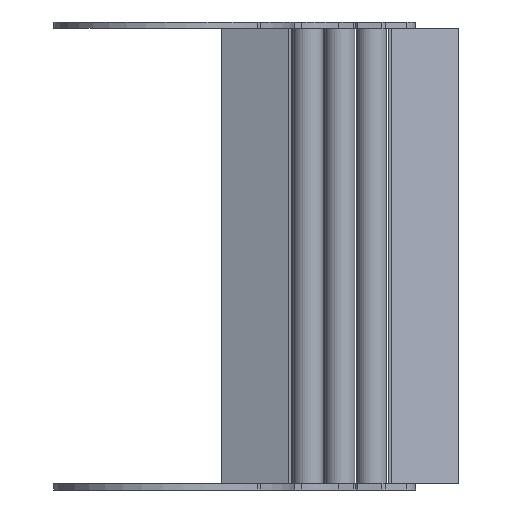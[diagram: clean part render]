
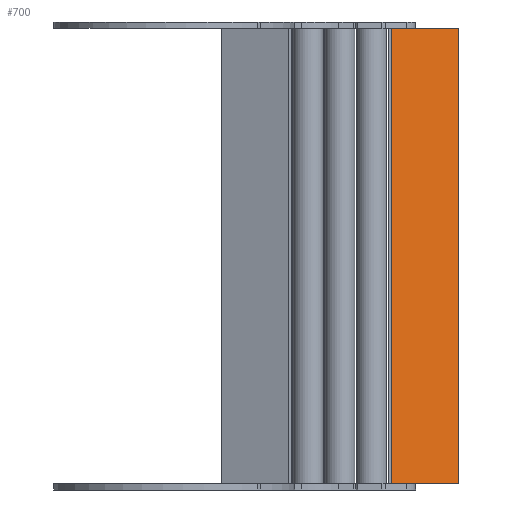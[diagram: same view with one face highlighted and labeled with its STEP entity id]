
A CAD part, front view. The second image highlights one B-rep face of the part: STEP entity #700.
In plain terms, the highlighted planar face has unit normal (0.342, -0.94, 0).
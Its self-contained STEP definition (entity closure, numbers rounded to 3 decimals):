
#283 = ORIENTED_EDGE ( 'NONE', *, *, #1589, .F. ) ;
#457 = DIRECTION ( 'NONE',  ( -0.94, -0.342, 0. ) ) ;
#575 = CARTESIAN_POINT ( 'NONE',  ( 108.255, 61.65, -227. ) ) ;
#700 = ADVANCED_FACE ( 'NONE', ( #4869 ), #1902, .F. ) ;
#917 = VERTEX_POINT ( 'NONE', #1265 ) ;
#937 = LINE ( 'NONE', #6231, #3523 ) ;
#966 = VECTOR ( 'NONE', #457, 1000. ) ;
#1051 = EDGE_CURVE ( 'NONE', #2032, #5133, #5515, .T. ) ;
#1070 = VECTOR ( 'NONE', #4342, 1000. ) ;
#1265 = CARTESIAN_POINT ( 'NONE',  ( 114.569, 63.948, 0. ) ) ;
#1536 = VERTEX_POINT ( 'NONE', #5814 ) ;
#1589 = EDGE_CURVE ( 'NONE', #1536, #2032, #4752, .T. ) ;
#1902 = PLANE ( 'NONE',  #3889 ) ;
#2032 = VERTEX_POINT ( 'NONE', #2077 ) ;
#2040 = VERTEX_POINT ( 'NONE', #4266 ) ;
#2060 = DIRECTION ( 'NONE',  ( 0., 0., 1. ) ) ;
#2077 = CARTESIAN_POINT ( 'NONE',  ( 108.255, 61.65, -227. ) ) ;
#2225 = CARTESIAN_POINT ( 'NONE',  ( 108.255, 61.65, 0. ) ) ;
#2378 = ORIENTED_EDGE ( 'NONE', *, *, #6175, .T. ) ;
#2415 = VECTOR ( 'NONE', #2060, 1000. ) ;
#2785 = DIRECTION ( 'NONE',  ( -0.94, -0.342, 0. ) ) ;
#2838 = EDGE_CURVE ( 'NONE', #4017, #1536, #5195, .T. ) ;
#2839 = CARTESIAN_POINT ( 'NONE',  ( 108.255, 61.65, -227. ) ) ;
#3214 = CARTESIAN_POINT ( 'NONE',  ( 141.6, 73.787, -227. ) ) ;
#3335 = DIRECTION ( 'NONE',  ( -0.94, -0.342, 0. ) ) ;
#3344 = ORIENTED_EDGE ( 'NONE', *, *, #2838, .F. ) ;
#3523 = VECTOR ( 'NONE', #6705, 1000. ) ;
#3556 = VECTOR ( 'NONE', #3335, 1000. ) ;
#3649 = CARTESIAN_POINT ( 'NONE',  ( 108.255, 61.65, 0. ) ) ;
#3784 = CARTESIAN_POINT ( 'NONE',  ( 108.255, 61.65, -227. ) ) ;
#3838 = DIRECTION ( 'NONE',  ( -0.94, -0.342, 0. ) ) ;
#3889 = AXIS2_PLACEMENT_3D ( 'NONE', #2839, #5603, #2785 ) ;
#4005 = LINE ( 'NONE', #2225, #6592 ) ;
#4017 = VERTEX_POINT ( 'NONE', #3214 ) ;
#4266 = CARTESIAN_POINT ( 'NONE',  ( 141.6, 73.787, 0. ) ) ;
#4342 = DIRECTION ( 'NONE',  ( -0.94, -0.342, 0. ) ) ;
#4712 = ORIENTED_EDGE ( 'NONE', *, *, #1051, .F. ) ;
#4752 = LINE ( 'NONE', #3784, #966 ) ;
#4789 = ORIENTED_EDGE ( 'NONE', *, *, #7077, .T. ) ;
#4869 = FACE_OUTER_BOUND ( 'NONE', #5398, .T. ) ;
#5127 = CARTESIAN_POINT ( 'NONE',  ( 108.255, 61.65, 0. ) ) ;
#5133 = VERTEX_POINT ( 'NONE', #5127 ) ;
#5159 = ORIENTED_EDGE ( 'NONE', *, *, #7052, .T. ) ;
#5195 = LINE ( 'NONE', #575, #3556 ) ;
#5310 = CARTESIAN_POINT ( 'NONE',  ( 108.255, 61.65, -227. ) ) ;
#5398 = EDGE_LOOP ( 'NONE', ( #4789, #5159, #4712, #283, #3344, #2378 ) ) ;
#5515 = LINE ( 'NONE', #5310, #2415 ) ;
#5603 = DIRECTION ( 'NONE',  ( -0.342, 0.94, 0. ) ) ;
#5814 = CARTESIAN_POINT ( 'NONE',  ( 114.569, 63.948, -227. ) ) ;
#6175 = EDGE_CURVE ( 'NONE', #4017, #2040, #937, .T. ) ;
#6231 = CARTESIAN_POINT ( 'NONE',  ( 141.6, 73.787, -227. ) ) ;
#6592 = VECTOR ( 'NONE', #3838, 1000. ) ;
#6705 = DIRECTION ( 'NONE',  ( 0., 0., 1. ) ) ;
#6765 = LINE ( 'NONE', #3649, #1070 ) ;
#7052 = EDGE_CURVE ( 'NONE', #917, #5133, #6765, .T. ) ;
#7077 = EDGE_CURVE ( 'NONE', #2040, #917, #4005, .T. ) ;
